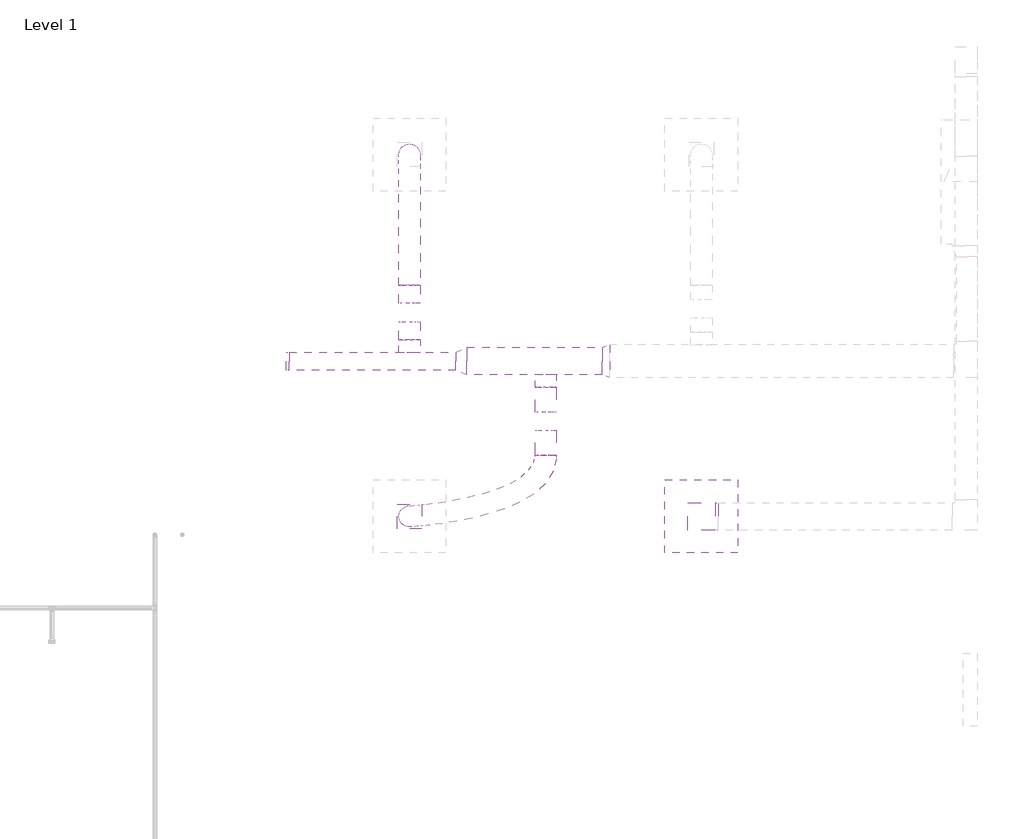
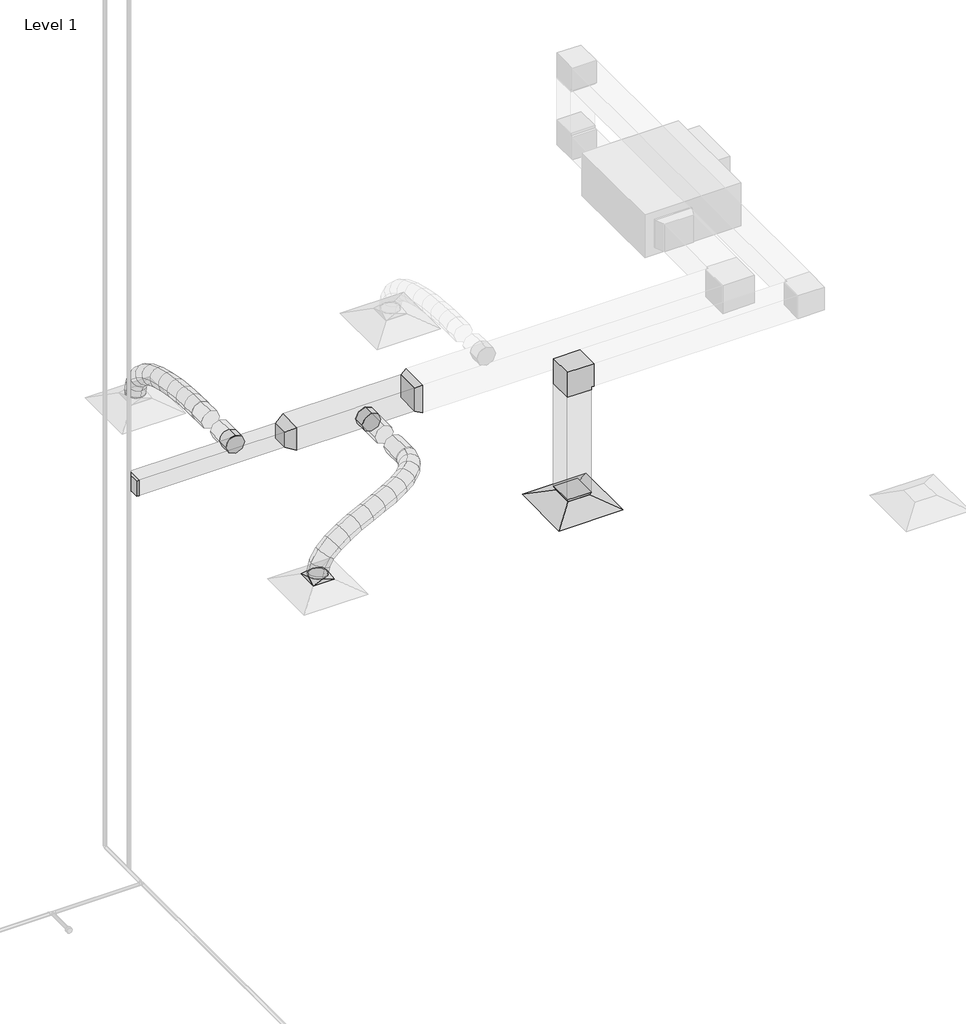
# One storey, part 4 of 7: 9 duct segments, 8 duct fittings, 1 air terminal.
"""IFC4 building model written with IfcOpenShell, lengths in millimetres."""

from ifc_helpers import new_model, si_unit, point, frame, frame_2d, origin, place, context, project, spatial, polyline, circle_curve, ellipse_curve, trimmed, segment, composite_curve, outline, extrude, transform, mapped, element, save
from ifc_brep_helpers import plane_surface, cylinder_surface, advanced_brep
from components import return_diffuser_24_x_24_face_8_x_8_connection_1cf4ec6c, rectangular_elbow_mitered_standard_ce3c2c2c, rectangular_endcap_standard_4a371c32, rectangular_transition_angle_45_degree_65630bf0, rectangular_transition_angle_45_degree_7070cd09, rectangular_transition_angle_45_degree_b0e98409, rectangular_to_round_transition_angle_45_degree_5c3b2161, round_takeoff_standard_f7421198

model = new_model("IFC4")

# Units and contexts
model_context = context("Model", 3, world=origin())
ifc_project = project(units=[si_unit("LENGTHUNIT", "METRE", prefix="MILLI")], contexts=[model_context])

# Site, building, storey
site = spatial("IfcSite", under=ifc_project)
building = spatial("IfcBuilding", under=site)
storey = spatial("IfcBuildingStorey", under=building, Name="Level 1", Elevation=0.0)

# Air terminal
placement = place(None, origin())
return_diffuser_24_x_24_face_8_x_8_connection_shape = return_diffuser_24_x_24_face_8_x_8_connection_1cf4ec6c(model_context)
element("IfcAirTerminal", 1, ObjectType="Return Diffuser : 24 x 24 Face 8 x 8 Connection", at=placement, inside=storey, context=model_context, shape_type="MappedRepresentation", body=[
    mapped(return_diffuser_24_x_24_face_8_x_8_connection_shape, transform((-12181.925255, 13180.8612109, 2438.4), x_axis=(1.0, 0.0, 0.0), y_axis=(0.0, 1.0, 0.0), z_axis=(0.0, 0.0, 1.0))),
])

# Duct fittings
rectangular_elbow_mitered_standard_shape = rectangular_elbow_mitered_standard_ce3c2c2c(model_context)
element("IfcDuctFitting", 2, ObjectType="Rectangular Elbow - Mitered : Standard", at=placement, inside=storey, context=model_context, shape_type="MappedRepresentation", body=[
    mapped(rectangular_elbow_mitered_standard_shape, transform((-12181.925255, 13180.8612109, 3747.2), x_axis=(-1.0, 0.0, 0.0), y_axis=(0.0, 0.0, -1.0), z_axis=(0.0, -1.0, 0.0))),
])
rectangular_endcap_standard_shape = rectangular_endcap_standard_4a371c32(model_context)
element("IfcDuctFitting", 3, ObjectType="Rectangular Endcap : Standard", at=placement, inside=storey, context=model_context, shape_type="MappedRepresentation", body=[
    mapped(rectangular_endcap_standard_shape, transform((-15626.0992371, 14476.8573996, 3048.0), x_axis=(-1.0, 0.0, 0.0), y_axis=(0.0, -1.0, 0.0), z_axis=(0.0, 0.0, 1.0))),
])
rectangular_transition_angle_45_degree_shape = rectangular_transition_angle_45_degree_65630bf0(model_context)
element("IfcDuctFitting", 4, ObjectType="Rectangular Transition - Angle : 45 Degree", at=placement, inside=storey, context=model_context, shape_type="MappedRepresentation", body=[
    mapped(rectangular_transition_angle_45_degree_shape, transform((-14232.2742371, 14476.8573996, 3048.0), x_axis=(1.0, 0.0, 0.0), y_axis=(0.0, 1.0, 0.0), z_axis=(0.0, 0.0, 1.0))),
])
rectangular_transition_angle_45_degree_2_shape = rectangular_transition_angle_45_degree_7070cd09(model_context)
element("IfcDuctFitting", 5, ObjectType="Rectangular Transition - Angle : 45 Degree", at=placement, inside=storey, context=model_context, shape_type="MappedRepresentation", body=[
    mapped(rectangular_transition_angle_45_degree_2_shape, transform((-13009.8992371, 14476.8573996, 3048.0), x_axis=(1.0, 0.0, 0.0), y_axis=(0.0, 1.0, 0.0), z_axis=(0.0, 0.0, 1.0))),
])
rectangular_transition_angle_45_degree_3_shape = rectangular_transition_angle_45_degree_b0e98409(model_context)
element("IfcDuctFitting", 6, ObjectType="Rectangular Transition - Angle : 45 Degree", at=placement, inside=storey, context=model_context, shape_type="MappedRepresentation", body=[
    mapped(rectangular_transition_angle_45_degree_3_shape, transform((-12181.925255, 13180.8612109, 2540.0), x_axis=(0.0, 0.0, 1.0), y_axis=(1.0, 0.0, 0.0), z_axis=(0.0, 1.0, 0.0))),
])
rectangular_to_round_transition_angle_45_degree_shape = rectangular_to_round_transition_angle_45_degree_5c3b2161(model_context)
element("IfcDuctFitting", 7, ObjectType="Rectangular to Round Transition - Angle : 45 Degree", at=placement, inside=storey, context=model_context, shape_type="MappedRepresentation", body=[
    mapped(rectangular_to_round_transition_angle_45_degree_shape, transform((-14620.325255, 13180.8612109, 2540.0), x_axis=(0.0, 0.0, 1.0), y_axis=(1.0, 0.0, 0.0), z_axis=(0.0, 1.0, 0.0))),
])
round_takeoff_standard_shape = round_takeoff_standard_f7421198(model_context)
element("IfcDuctFitting", 8, ObjectType="Round Takeoff : Standard", at=placement, inside=storey, context=model_context, shape_type="MappedRepresentation", body=[
    mapped(round_takeoff_standard_shape, transform((-14620.325255, 14553.0573996, 3048.0), x_axis=(0.0, 1.0, 0.0), y_axis=(-1.0, 0.0, 0.0), z_axis=(0.0, 0.0, 1.0))),
])
element("IfcDuctFitting", 9, ObjectType="Round Takeoff : Standard", at=placement, inside=storey, context=model_context, shape_type="MappedRepresentation", body=[
    mapped(round_takeoff_standard_shape, transform((-13482.7296854, 14362.5573996, 3048.0), x_axis=(0.0, -1.0, 0.0), y_axis=(-1.0, 0.0, 0.0), z_axis=(0.0, 0.0, -1.0))),
])

# Duct segments
element("IfcDuctSegment", 10, ObjectType="Flex - Round", at=placement, inside=storey, context=model_context, shape_type="AdvancedBrep", body=[
    advanced_brep(
    [(-14531.425255, 13180.8612109, 2570.6605122), (-14620.325255, 13091.9612109, 2570.6605122), (-14709.225255, 13180.8612109, 2570.6605122), (-14620.325255, 13269.7612109, 2570.6605122), (-14531.425255, 13180.8612109, 2577.4233692), (-14620.325255, 13091.9612109, 2588.9006585), (-14709.225255, 13180.8612109, 2598.9437254), (-14620.325255, 13269.7612109, 2587.4664361), (-13463.2183729, 13689.4573996, 2961.2675454), (-13569.46214, 13689.4573996, 3028.4886874), (-13502.240998, 13689.4573996, 3134.7324546), (-13395.9972308, 13689.4573996, 3067.5113126), (-14518.430238, 13181.7272628, 2630.3154958), (-14600.6608769, 13093.2717418, 2668.9383207), (-14683.9034435, 13182.5487811, 2702.0081897), (-14601.6728046, 13271.004302, 2663.3853648), (-14480.2960013, 13184.8790681, 2688.8770903), (-14545.6042921, 13097.822184, 2753.4870536), (-14615.3719144, 13188.2129311, 2807.2499871), (-14550.0636237, 13275.2698152, 2742.6400238), (-14415.2281817, 13191.6068255, 2744.3763234), (-14461.595161, 13106.5083986, 2825.1421724), (-14517.8521106, 13198.2960963, 2890.4289588), (-14471.4851312, 13283.3945232, 2809.6631098), (-14324.5750403, 13203.2807992, 2795.2392776), (-14355.3066081, 13120.1958424, 2884.7777208), (-14402.4228502, 13213.1606463, 2955.1931037), (-14371.6912824, 13296.2456031, 2865.6546605), (-14214.8074731, 13220.8689482, 2839.0491198), (-14232.9864009, 13139.7953114, 2933.5975053), (-14275.0403168, 13233.5712561, 3006.0333367), (-14256.861389, 13314.6448929, 2911.4849512), (-14093.0935743, 13245.2276606, 2875.0921745), (-14100.6635278, 13166.2772074, 2972.7821883), (-14140.9634959, 13260.4041712, 3045.7374151), (-14133.3935423, 13339.3546244, 2948.0474012), (-13966.3709513, 13277.2062864, 2903.5889555), (-13964.2175531, 13200.7095342, 3003.4655105), (-14005.6818593, 13294.5426757, 3076.1589065), (-14007.8352575, 13371.0394279, 2976.2823515), (-13841.2729305, 13317.6886857, 2925.1877284), (-13829.3544505, 13244.351967, 3026.7502715), (-13874.9891604, 13336.8355433, 3098.7236273), (-13886.9076403, 13410.172262, 2997.1610841), (-13724.181624, 13367.6387531, 2940.7321526), (-13701.5507018, 13298.8718631, 3043.7168231), (-13754.9303664, 13388.0515134, 3114.6619995), (-13777.5612885, 13456.8184034, 3011.677329), (-13621.278483, 13428.2022191, 2951.1562576), (-13586.1214016, 13366.8075785, 3055.4098301), (-13651.7511055, 13448.7774893, 3125.1140755), (-13686.908187, 13510.1721298, 3020.860503), (-13538.7013164, 13500.9048511, 2957.4255134), (-13489.0655521, 13452.2575401, 3062.7783071), (-13571.7406486, 13519.2203374, 3131.1884668), (-13621.376413, 13567.8676484, 3025.8356732), (-13483.3789219, 13587.3818243, 2960.4778806), (-13421.111437, 13558.4797351, 3066.5276189), (-13520.3972775, 13599.4775165, 3134.0212947), (-13582.6647623, 13628.3796057, 3027.9715564), (-13463.2183729, 13670.1286388, 2961.2675454), (-13395.9972308, 13661.5583051, 3067.5113126), (-13502.240998, 13673.9980213, 3134.7324546), (-13569.46214, 13682.5683551, 3028.4886874)],
    [
        (0, 1, circle_curve(frame((-14620.325255, 13180.8612109, 2570.6605122), z_axis=(0.0, 0.0, -1.0), x_axis=(1.0, 0.0, 0.0)), 88.9)),
        (1, 2, circle_curve(frame((-14620.325255, 13180.8612109, 2570.6605122), z_axis=(0.0, 0.0, -1.0), x_axis=(1.0, 0.0, 0.0)), 88.9)),
        (2, 3, circle_curve(frame((-14620.325255, 13180.8612109, 2570.6605122), z_axis=(0.0, 0.0, -1.0), x_axis=(1.0, 0.0, 0.0)), 88.9)),
        (3, 0, circle_curve(frame((-14620.325255, 13180.8612109, 2570.6605122), z_axis=(0.0, 0.0, -1.0), x_axis=(1.0, 0.0, 0.0)), 88.9)),
        (0, 4),
        (4, 5, ellipse_curve(frame((-14620.325255, 13180.8612109, 2588.1835473), z_axis=(-0.12015605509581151, -0.008007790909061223, -0.9927227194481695), x_axis=(0.9905254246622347, 0.0660134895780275, -0.1204225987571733)), 89.5516928, 88.9)),
        (5, 1),
        (5, 6, ellipse_curve(frame((-14620.325255, 13180.8612109, 2588.1835473), z_axis=(-0.12015605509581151, -0.008007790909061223, -0.9927227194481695), x_axis=(0.9905254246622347, 0.0660134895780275, -0.1204225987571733)), 89.5516928, 88.9)),
        (6, 2),
        (6, 7, ellipse_curve(frame((-14620.325255, 13180.8612109, 2588.1835473), z_axis=(-0.12015605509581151, -0.008007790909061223, -0.9927227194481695), x_axis=(0.9905254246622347, 0.0660134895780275, -0.1204225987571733)), 89.5516928, 88.9)),
        (7, 3),
        (7, 4, ellipse_curve(frame((-14620.325255, 13180.8612109, 2588.1835473), z_axis=(-0.12015605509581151, -0.008007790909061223, -0.9927227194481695), x_axis=(0.9905254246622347, 0.0660134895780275, -0.1204225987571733)), 89.5516928, 88.9)),
        (8, 9, circle_curve(frame((-13482.7296854, 13689.4573996, 3048.0), z_axis=(0.0, 1.0, 0.0), x_axis=(0.21947483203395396, 0.0, -0.9756181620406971)), 88.9)),
        (9, 10, circle_curve(frame((-13482.7296854, 13689.4573996, 3048.0), z_axis=(0.0, 1.0, 0.0), x_axis=(0.21947483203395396, 0.0, -0.9756181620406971)), 88.9)),
        (10, 11, circle_curve(frame((-13482.7296854, 13689.4573996, 3048.0), z_axis=(0.0, 1.0, 0.0), x_axis=(0.21947483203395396, 0.0, -0.9756181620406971)), 88.9)),
        (11, 8, circle_curve(frame((-13482.7296854, 13689.4573996, 3048.0), z_axis=(0.0, 1.0, 0.0), x_axis=(0.21947483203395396, 0.0, -0.9756181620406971)), 88.9)),
        (4, 12),
        (12, 13, ellipse_curve(frame((-14601.1668407, 13182.1380219, 2666.1618427), z_axis=(-0.39748891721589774, -0.030915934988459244, -0.9170860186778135), x_axis=(0.9129878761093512, 0.08682996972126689, -0.39863980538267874)), 90.1800716, 88.9)),
        (13, 5),
        (13, 14, ellipse_curve(frame((-14601.1668407, 13182.1380219, 2666.1618427), z_axis=(-0.39748891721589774, -0.030915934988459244, -0.9170860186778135), x_axis=(0.9129878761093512, 0.08682996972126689, -0.39863980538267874)), 90.1800716, 88.9)),
        (14, 6),
        (14, 15, ellipse_curve(frame((-14601.1668407, 13182.1380219, 2666.1618427), z_axis=(-0.39748891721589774, -0.030915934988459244, -0.9170860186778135), x_axis=(0.9129878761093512, 0.08682996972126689, -0.39863980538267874)), 90.1800716, 88.9)),
        (15, 7),
        (15, 12, ellipse_curve(frame((-14601.1668407, 13182.1380219, 2666.1618427), z_axis=(-0.39748891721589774, -0.030915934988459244, -0.9170860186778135), x_axis=(0.9129878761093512, 0.08682996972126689, -0.39863980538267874)), 90.1800716, 88.9)),
        (12, 16),
        (16, 17, ellipse_curve(frame((-14547.8339579, 13186.5459996, 2748.0635387), z_axis=(-0.6586632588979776, -0.06238916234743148, -0.7498468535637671), x_axis=(0.7414381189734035, 0.1159619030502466, -0.660925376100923)), 89.8347444, 88.9)),
        (17, 13),
        (17, 18, ellipse_curve(frame((-14547.8339579, 13186.5459996, 2748.0635387), z_axis=(-0.6586632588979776, -0.06238916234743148, -0.7498468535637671), x_axis=(0.7414381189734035, 0.1159619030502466, -0.660925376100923)), 89.8347444, 88.9)),
        (18, 14),
        (18, 19, ellipse_curve(frame((-14547.8339579, 13186.5459996, 2748.0635387), z_axis=(-0.6586632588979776, -0.06238916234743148, -0.7498468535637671), x_axis=(0.7414381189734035, 0.1159619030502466, -0.660925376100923)), 89.8347444, 88.9)),
        (19, 15),
        (19, 16, ellipse_curve(frame((-14547.8339579, 13186.5459996, 2748.0635387), z_axis=(-0.6586632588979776, -0.06238916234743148, -0.7498468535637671), x_axis=(0.7414381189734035, 0.1159619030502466, -0.660925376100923)), 89.8347444, 88.9)),
        (16, 20),
        (20, 21, ellipse_curve(frame((-14466.5401461, 13194.9514609, 2817.4026411), z_axis=(-0.8165257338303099, -0.09547702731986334, -0.5693591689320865), x_axis=(0.5504021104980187, 0.1688323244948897, -0.8176510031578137)), 89.3323337, 88.9)),
        (21, 17),
        (21, 22, ellipse_curve(frame((-14466.5401461, 13194.9514609, 2817.4026411), z_axis=(-0.8165257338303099, -0.09547702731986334, -0.5693591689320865), x_axis=(0.5504021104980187, 0.1688323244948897, -0.8176510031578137)), 89.3323337, 88.9)),
        (22, 18),
        (22, 23, ellipse_curve(frame((-14466.5401461, 13194.9514609, 2817.4026411), z_axis=(-0.8165257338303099, -0.09547702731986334, -0.5693591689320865), x_axis=(0.5504021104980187, 0.1688323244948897, -0.8176510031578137)), 89.3323337, 88.9)),
        (23, 19),
        (23, 20, ellipse_curve(frame((-14466.5401461, 13194.9514609, 2817.4026411), z_axis=(-0.8165257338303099, -0.09547702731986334, -0.5693591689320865), x_axis=(0.5504021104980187, 0.1688323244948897, -0.8176510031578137)), 89.3323337, 88.9)),
        (20, 24),
        (24, 25, ellipse_curve(frame((-14363.4989452, 13208.2207228, 2875.2161907), z_axis=(-0.8946974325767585, -0.1296966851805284, -0.42742867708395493), x_axis=(0.38452819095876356, 0.26325683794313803, -0.8847790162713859)), 89.1037971, 88.9)),
        (25, 21),
        (25, 26, ellipse_curve(frame((-14363.4989452, 13208.2207228, 2875.2161907), z_axis=(-0.8946974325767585, -0.1296966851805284, -0.42742867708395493), x_axis=(0.38452819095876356, 0.26325683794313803, -0.8847790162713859)), 89.1037971, 88.9)),
        (26, 22),
        (26, 27, ellipse_curve(frame((-14363.4989452, 13208.2207228, 2875.2161907), z_axis=(-0.8946974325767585, -0.1296966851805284, -0.42742867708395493), x_axis=(0.38452819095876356, 0.26325683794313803, -0.8847790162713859)), 89.1037971, 88.9)),
        (27, 23),
        (27, 24, ellipse_curve(frame((-14363.4989452, 13208.2207228, 2875.2161907), z_axis=(-0.8946974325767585, -0.1296966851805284, -0.42742867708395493), x_axis=(0.38452819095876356, 0.26325683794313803, -0.8847790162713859)), 89.1037971, 88.9)),
        (24, 28),
        (28, 29, ellipse_curve(frame((-14244.923895, 13227.2201021, 2922.5412283), z_axis=(-0.931309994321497, -0.1680341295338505, -0.32315046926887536), x_axis=(0.23087524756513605, 0.41385988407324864, -0.8805774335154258)), 89.0106581, 88.9)),
        (29, 25),
        (29, 30, ellipse_curve(frame((-14244.923895, 13227.2201021, 2922.5412283), z_axis=(-0.931309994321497, -0.1680341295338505, -0.32315046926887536), x_axis=(0.23087524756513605, 0.41385988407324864, -0.8805774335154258)), 89.0106581, 88.9)),
        (30, 26),
        (30, 31, ellipse_curve(frame((-14244.923895, 13227.2201021, 2922.5412283), z_axis=(-0.931309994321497, -0.1680341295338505, -0.32315046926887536), x_axis=(0.23087524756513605, 0.41385988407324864, -0.8805774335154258)), 89.0106581, 88.9)),
        (31, 27),
        (31, 28, ellipse_curve(frame((-14244.923895, 13227.2201021, 2922.5412283), z_axis=(-0.931309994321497, -0.1680341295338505, -0.32315046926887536), x_axis=(0.23087524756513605, 0.41385988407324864, -0.8805774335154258)), 89.0106581, 88.9)),
        (28, 32),
        (32, 33, ellipse_curve(frame((-14117.0285351, 13252.8159159, 2960.4147948), z_axis=(-0.945322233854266, -0.21394505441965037, -0.24615724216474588), x_axis=(0.06831421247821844, 0.6081264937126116, -0.790895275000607)), 88.9770615, 88.9)),
        (33, 29),
        (33, 34, ellipse_curve(frame((-14117.0285351, 13252.8159159, 2960.4147948), z_axis=(-0.945322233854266, -0.21394505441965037, -0.24615724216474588), x_axis=(0.06831421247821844, 0.6081264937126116, -0.790895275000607)), 88.9770615, 88.9)),
        (34, 30),
        (34, 35, ellipse_curve(frame((-14117.0285351, 13252.8159159, 2960.4147948), z_axis=(-0.945322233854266, -0.21394505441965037, -0.24615724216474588), x_axis=(0.06831421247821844, 0.6081264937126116, -0.790895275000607)), 88.9770615, 88.9)),
        (35, 31),
        (35, 32, ellipse_curve(frame((-14117.0285351, 13252.8159159, 2960.4147948), z_axis=(-0.945322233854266, -0.21394505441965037, -0.24615724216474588), x_axis=(0.06831421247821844, 0.6081264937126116, -0.790895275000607)), 88.9770615, 88.9)),
        (32, 36),
        (36, 37, ellipse_curve(frame((-13986.0264053, 13285.874481, 2989.873931), z_axis=(-0.9439031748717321, -0.2716720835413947, -0.18772606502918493), x_axis=(-0.10269120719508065, 0.7817836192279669, -0.6150356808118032)), 88.9763267, 88.9)),
        (37, 33),
        (37, 38, ellipse_curve(frame((-13986.0264053, 13285.874481, 2989.873931), z_axis=(-0.9439031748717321, -0.2716720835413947, -0.18772606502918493), x_axis=(-0.10269120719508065, 0.7817836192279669, -0.6150356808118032)), 88.9763267, 88.9)),
        (38, 34),
        (38, 39, ellipse_curve(frame((-13986.0264053, 13285.874481, 2989.873931), z_axis=(-0.9439031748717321, -0.2716720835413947, -0.18772606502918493), x_axis=(-0.10269120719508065, 0.7817836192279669, -0.6150356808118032)), 88.9763267, 88.9)),
        (39, 35),
        (39, 36, ellipse_curve(frame((-13986.0264053, 13285.874481, 2989.873931), z_axis=(-0.9439031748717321, -0.2716720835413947, -0.18772606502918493), x_axis=(-0.10269120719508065, 0.7817836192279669, -0.6150356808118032)), 88.9763267, 88.9)),
        (36, 40),
        (40, 41, ellipse_curve(frame((-13858.1310454, 13327.2621145, 3011.9556778), z_axis=(-0.927053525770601, -0.3470704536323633, -0.14182334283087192), x_axis=(-0.2624478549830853, 0.8708527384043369, -0.41561596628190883)), 89.0077446, 88.9)),
        (41, 37),
        (41, 42, ellipse_curve(frame((-13858.1310454, 13327.2621145, 3011.9556778), z_axis=(-0.927053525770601, -0.3470704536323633, -0.14182334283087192), x_axis=(-0.2624478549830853, 0.8708527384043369, -0.41561596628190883)), 89.0077446, 88.9)),
        (42, 38),
        (42, 43, ellipse_curve(frame((-13858.1310454, 13327.2621145, 3011.9556778), z_axis=(-0.927053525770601, -0.3470704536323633, -0.14182334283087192), x_axis=(-0.2624478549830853, 0.8708527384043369, -0.41561596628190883)), 89.0077446, 88.9)),
        (43, 39),
        (43, 40, ellipse_curve(frame((-13858.1310454, 13327.2621145, 3011.9556778), z_axis=(-0.927053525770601, -0.3470704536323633, -0.14182334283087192), x_axis=(-0.2624478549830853, 0.8708527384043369, -0.41561596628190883)), 89.0077446, 88.9)),
        (40, 44),
        (44, 45, ellipse_curve(frame((-13739.5559952, 13377.8451332, 3027.6970761), z_axis=(-0.887736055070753, -0.44837739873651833, -0.10431876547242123), x_axis=(-0.4111562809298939, 0.8741669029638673, -0.2584235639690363)), 89.0956868, 88.9)),
        (45, 41),
        (45, 46, ellipse_curve(frame((-13739.5559952, 13377.8451332, 3027.6970761), z_axis=(-0.887736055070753, -0.44837739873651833, -0.10431876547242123), x_axis=(-0.4111562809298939, 0.8741669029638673, -0.2584235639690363)), 89.0956868, 88.9)),
        (46, 42),
        (46, 47, ellipse_curve(frame((-13739.5559952, 13377.8451332, 3027.6970761), z_axis=(-0.887736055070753, -0.44837739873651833, -0.10431876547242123), x_axis=(-0.4111562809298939, 0.8741669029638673, -0.2584235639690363)), 89.0956868, 88.9)),
        (47, 43),
        (47, 44, ellipse_curve(frame((-13739.5559952, 13377.8451332, 3027.6970761), z_axis=(-0.887736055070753, -0.44837739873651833, -0.10431876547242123), x_axis=(-0.4111562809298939, 0.8741669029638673, -0.2584235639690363)), 89.0956868, 88.9)),
        (44, 48),
        (48, 49, ellipse_curve(frame((-13636.5147943, 13438.4898542, 3038.1351665), z_axis=(-0.8076579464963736, -0.5852065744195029, -0.07226276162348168), x_axis=(-0.5702051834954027, 0.8063484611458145, -0.15706115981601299)), 89.3104579, 88.9)),
        (49, 45),
        (49, 50, ellipse_curve(frame((-13636.5147943, 13438.4898542, 3038.1351665), z_axis=(-0.8076579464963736, -0.5852065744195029, -0.07226276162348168), x_axis=(-0.5702051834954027, 0.8063484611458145, -0.15706115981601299)), 89.3104579, 88.9)),
        (50, 46),
        (50, 51, ellipse_curve(frame((-13636.5147943, 13438.4898542, 3038.1351665), z_axis=(-0.8076579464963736, -0.5852065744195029, -0.07226276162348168), x_axis=(-0.5702051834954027, 0.8063484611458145, -0.15706115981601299)), 89.3104579, 88.9)),
        (51, 47),
        (51, 48, ellipse_curve(frame((-13636.5147943, 13438.4898542, 3038.1351665), z_axis=(-0.8076579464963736, -0.5852065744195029, -0.07226276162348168), x_axis=(-0.5702051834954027, 0.8063484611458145, -0.15706115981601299)), 89.3104579, 88.9)),
        (48, 52),
        (52, 53, ellipse_curve(frame((-13555.2209825, 13510.0625942, 3044.3069901), z_axis=(-0.6504005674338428, -0.7583312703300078, -0.04373541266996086), x_axis=(-0.7526996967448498, 0.651168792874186, -0.09706889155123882)), 89.7836257, 88.9)),
        (53, 49),
        (53, 54, ellipse_curve(frame((-13555.2209825, 13510.0625942, 3044.3069901), z_axis=(-0.6504005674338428, -0.7583312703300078, -0.04373541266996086), x_axis=(-0.7526996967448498, 0.651168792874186, -0.09706889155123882)), 89.7836257, 88.9)),
        (54, 50),
        (54, 55, ellipse_curve(frame((-13555.2209825, 13510.0625942, 3044.3069901), z_axis=(-0.6504005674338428, -0.7583312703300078, -0.04373541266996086), x_axis=(-0.7526996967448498, 0.651168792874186, -0.09706889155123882)), 89.7836257, 88.9)),
        (55, 51),
        (55, 52, ellipse_curve(frame((-13555.2209825, 13510.0625942, 3044.3069901), z_axis=(-0.6504005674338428, -0.7583312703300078, -0.04373541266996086), x_axis=(-0.7526996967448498, 0.651168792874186, -0.09706889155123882)), 89.7836257, 88.9)),
        (52, 56),
        (56, 57, ellipse_curve(frame((-13501.8880997, 13593.4296704, 3047.2495877), z_axis=(-0.39304303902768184, -0.9193076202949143, -0.019765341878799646), x_axis=(-0.9172282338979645, 0.3934895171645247, -0.06211575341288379)), 90.1293234, 88.9)),
        (57, 53),
        (57, 58, ellipse_curve(frame((-13501.8880997, 13593.4296704, 3047.2495877), z_axis=(-0.39304303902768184, -0.9193076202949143, -0.019765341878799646), x_axis=(-0.9172282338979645, 0.3934895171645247, -0.06211575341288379)), 90.1293234, 88.9)),
        (58, 54),
        (58, 59, ellipse_curve(frame((-13501.8880997, 13593.4296704, 3047.2495877), z_axis=(-0.39304303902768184, -0.9193076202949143, -0.019765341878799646), x_axis=(-0.9172282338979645, 0.3934895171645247, -0.06211575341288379)), 90.1293234, 88.9)),
        (59, 55),
        (59, 56, ellipse_curve(frame((-13501.8880997, 13593.4296704, 3047.2495877), z_axis=(-0.39304303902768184, -0.9193076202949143, -0.019765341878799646), x_axis=(-0.9172282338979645, 0.3934895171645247, -0.06211575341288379)), 90.1293234, 88.9)),
        (56, 60),
        (60, 61, ellipse_curve(frame((-13482.7296854, 13672.0633301, 3048.0), z_axis=(-0.11920457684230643, -0.9928587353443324, -0.004669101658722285), x_axis=(-0.9920979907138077, 0.11929598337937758, -0.03885929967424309)), 89.5394247, 88.9)),
        (61, 57),
        (61, 62, ellipse_curve(frame((-13482.7296854, 13672.0633301, 3048.0), z_axis=(-0.11920457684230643, -0.9928587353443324, -0.004669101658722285), x_axis=(-0.9920979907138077, 0.11929598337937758, -0.03885929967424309)), 89.5394247, 88.9)),
        (62, 58),
        (62, 63, ellipse_curve(frame((-13482.7296854, 13672.0633301, 3048.0), z_axis=(-0.11920457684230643, -0.9928587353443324, -0.004669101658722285), x_axis=(-0.9920979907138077, 0.11929598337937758, -0.03885929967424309)), 89.5394247, 88.9)),
        (63, 59),
        (63, 60, ellipse_curve(frame((-13482.7296854, 13672.0633301, 3048.0), z_axis=(-0.11920457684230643, -0.9928587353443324, -0.004669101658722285), x_axis=(-0.9920979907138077, 0.11929598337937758, -0.03885929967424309)), 89.5394247, 88.9)),
        (60, 8),
        (11, 61),
        (10, 62),
        (9, 63),
    ],
    [
        plane_surface(frame((-14620.325255, 13091.9612109, 2570.6605122), z_axis=(0.0, 0.0, -1.0), x_axis=(1.0, 0.0, 0.0))),
        cylinder_surface(frame((-14620.325255, 13180.8612109, 2570.6605122), z_axis=(0.0, 0.0, -1.0), x_axis=(1.0, 0.0, 0.0)), 88.9),
        plane_surface(frame((-13571.6296854, 13689.4573996, 3048.0), z_axis=(0.0, 1.0, 0.0), x_axis=(0.0, 0.0, 1.0))),
        cylinder_surface(frame((-14620.325255, 13180.8612109, 2588.1835473), z_axis=(-0.23856329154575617, -0.015899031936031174, -0.9709967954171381), x_axis=(0.9711250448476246, -0.0019243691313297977, -0.23856329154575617)), 88.9),
        cylinder_surface(frame((-14601.1668407, 13182.1380219, 2666.1618427), z_axis=(-0.545130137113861, -0.04505515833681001, -0.8371398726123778), x_axis=(0.8382294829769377, -0.012260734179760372, -0.5451797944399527)), 88.9),
        cylinder_surface(frame((-14547.8339579, 13186.5459996, 2748.0635387), z_axis=(-0.7584893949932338, -0.07842482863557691, -0.6469492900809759), x_axis=(0.6504516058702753, -0.030047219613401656, -0.7589531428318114)), 88.9),
        cylinder_surface(frame((-14466.5401461, 13194.9514609, 2817.4026411), z_axis=(-0.8666587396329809, -0.11160508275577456, -0.486258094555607), x_axis=(0.49347498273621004, -0.0484026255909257, -0.8684121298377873)), 88.9),
        cylinder_surface(frame((-14363.4989452, 13208.2207228, 2875.2161907), z_axis=(-0.9186434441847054, -0.14719500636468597, -0.36664404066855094), x_axis=(0.37886622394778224, -0.06501648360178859, -0.9231647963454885)), 88.9),
        cylinder_surface(frame((-14244.923895, 13227.2201021, 2922.5412283), z_axis=(-0.9416609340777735, -0.1884554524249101, -0.27885341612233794), x_axis=(0.2976638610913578, -0.07966763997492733, -0.9513407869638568)), 88.9),
        cylinder_surface(frame((-14117.0285351, 13252.8159159, 2960.4147948), z_axis=(-0.9473460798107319, -0.23906406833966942, -0.21303468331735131), x_axis=(0.2406338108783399, -0.09257466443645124, -0.9661911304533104)), 88.9),
        cylinder_surface(frame((-13986.0264053, 13285.874481, 2989.873931), z_axis=(-0.9388408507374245, -0.30381400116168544, -0.16209537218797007), x_axis=(0.20173403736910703, -0.10377070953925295, -0.9739276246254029)), 88.9),
        cylinder_surface(frame((-13858.1310454, 13327.2621145, 3011.9556778), z_axis=(-0.9130217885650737, -0.3894866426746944, -0.12120795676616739), x_axis=(0.17785901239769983, -0.11270904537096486, -0.9775800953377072)), 88.9),
        cylinder_surface(frame((-13739.5559952, 13377.8451332, 3027.6970761), z_axis=(-0.8585507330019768, -0.5052985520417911, -0.08697132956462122), x_axis=(0.16831457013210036, -0.11752974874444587, -0.9787016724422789)), 88.9),
        cylinder_surface(frame((-13636.5147943, 13438.4898542, 3038.1351665), z_axis=(-0.7493414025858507, -0.6597355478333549, -0.056889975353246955), x_axis=(0.1740687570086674, -0.11336042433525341, -0.9781868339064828)), 88.9),
        cylinder_surface(frame((-13555.2209825, 13510.0625942, 3044.3069901), z_axis=(-0.5386576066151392, -0.8420004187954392, -0.02971998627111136), x_axis=(0.1942724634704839, -0.08980401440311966, -0.9768282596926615)), 88.9),
        cylinder_surface(frame((-13501.8880997, 13593.4296704, 3047.2495877), z_axis=(-0.23670661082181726, -0.9715369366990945, -0.009271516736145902), x_axis=(0.21432349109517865, -0.04290568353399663, -0.975819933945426)), 88.9),
        cylinder_surface(frame((-13482.7296854, 13672.0633301, 3048.0), z_axis=(0.0, -1.0000000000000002, 0.0), x_axis=(0.21947483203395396, 0.0, -0.9756181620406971)), 88.9),
    ],
    [
        (0, [[1, 2, 3, 4]]),
        (1, [[-1, 5, 6, 7]]),
        (1, [[-2, -7, 8, 9]]),
        (1, [[-3, -9, 10, 11]]),
        (1, [[-4, -11, 12, -5]]),
        (2, [[13, 14, 15, 16]]),
        (3, [[-6, 17, 18, 19]]),
        (3, [[-8, -19, 20, 21]]),
        (3, [[-10, -21, 22, 23]]),
        (3, [[-12, -23, 24, -17]]),
        (4, [[-18, 25, 26, 27]]),
        (4, [[-20, -27, 28, 29]]),
        (4, [[-22, -29, 30, 31]]),
        (4, [[-24, -31, 32, -25]]),
        (5, [[-26, 33, 34, 35]]),
        (5, [[-28, -35, 36, 37]]),
        (5, [[-30, -37, 38, 39]]),
        (5, [[-32, -39, 40, -33]]),
        (6, [[-34, 41, 42, 43]]),
        (6, [[-36, -43, 44, 45]]),
        (6, [[-38, -45, 46, 47]]),
        (6, [[-40, -47, 48, -41]]),
        (7, [[-42, 49, 50, 51]]),
        (7, [[-44, -51, 52, 53]]),
        (7, [[-46, -53, 54, 55]]),
        (7, [[-48, -55, 56, -49]]),
        (8, [[-50, 57, 58, 59]]),
        (8, [[-52, -59, 60, 61]]),
        (8, [[-54, -61, 62, 63]]),
        (8, [[-56, -63, 64, -57]]),
        (9, [[-58, 65, 66, 67]]),
        (9, [[-60, -67, 68, 69]]),
        (9, [[-62, -69, 70, 71]]),
        (9, [[-64, -71, 72, -65]]),
        (10, [[-66, 73, 74, 75]]),
        (10, [[-68, -75, 76, 77]]),
        (10, [[-70, -77, 78, 79]]),
        (10, [[-72, -79, 80, -73]]),
        (11, [[-74, 81, 82, 83]]),
        (11, [[-76, -83, 84, 85]]),
        (11, [[-78, -85, 86, 87]]),
        (11, [[-80, -87, 88, -81]]),
        (12, [[-82, 89, 90, 91]]),
        (12, [[-84, -91, 92, 93]]),
        (12, [[-86, -93, 94, 95]]),
        (12, [[-88, -95, 96, -89]]),
        (13, [[-90, 97, 98, 99]]),
        (13, [[-92, -99, 100, 101]]),
        (13, [[-94, -101, 102, 103]]),
        (13, [[-96, -103, 104, -97]]),
        (14, [[-98, 105, 106, 107]]),
        (14, [[-100, -107, 108, 109]]),
        (14, [[-102, -109, 110, 111]]),
        (14, [[-104, -111, 112, -105]]),
        (15, [[-106, 113, 114, 115]]),
        (15, [[-108, -115, 116, 117]]),
        (15, [[-110, -117, 118, 119]]),
        (15, [[-112, -119, 120, -113]]),
        (16, [[-114, 121, -16, 122]]),
        (16, [[-116, -122, -15, 123]]),
        (16, [[-118, -123, -14, 124]]),
        (16, [[-120, -124, -13, -121]]),
    ],
),
])
element("IfcDuctSegment", 11, ObjectType="Flex - Round", at=placement, inside=storey, context=model_context, shape_type="AdvancedBrep", body=[
    advanced_brep(
    [(-14531.425255, 16201.8737109, 2570.6605122), (-14620.325255, 16112.9737109, 2570.6605122), (-14709.225255, 16201.8737109, 2570.6605122), (-14620.325255, 16290.7737109, 2570.6605122), (-14531.425255, 16201.8737109, 2586.4523181), (-14620.325255, 16112.9737109, 2577.1822102), (-14709.225255, 16201.8737109, 2586.4523181), (-14620.325255, 16290.7737109, 2595.722426), (-14531.425255, 15111.8573996, 3048.0), (-14620.325255, 15113.7175086, 3136.8805378), (-14709.225255, 15111.8573996, 3048.0), (-14620.325255, 15109.9972905, 2959.1194622), (-14531.425255, 16182.0628327, 2680.4122246), (-14620.325255, 16098.1652096, 2647.4166232), (-14709.225255, 16182.0628327, 2680.4122246), (-14620.325255, 16265.9604558, 2713.4078261), (-14531.425255, 16126.5905159, 2772.6178247), (-14620.325255, 16057.3471166, 2715.2641005), (-14709.225255, 16126.5905159, 2772.6178247), (-14620.325255, 16195.8339153, 2829.9715488), (-14531.425255, 16041.3972373, 2848.6889575), (-14620.325255, 15989.3806328, 2775.9530129), (-14709.225255, 16041.3972373, 2848.6889575), (-14620.325255, 16093.4138419, 2921.4249021), (-14531.425255, 15932.4234736, 2910.0372683), (-14620.325255, 15894.6580011, 2829.2784488), (-14709.225255, 15932.4234736, 2910.0372683), (-14620.325255, 15970.1889461, 2990.7960879), (-14531.425255, 15805.6097014, 2958.0744023), (-14620.325255, 15778.5801244, 2873.248819), (-14709.225255, 15805.6097014, 2958.0744023), (-14620.325255, 15832.6392785, 3042.8999856), (-14531.425255, 15666.8963976, 2994.2120046), (-14620.325255, 15647.9006517, 2907.2934469), (-14709.225255, 15666.8963976, 2994.2120046), (-14620.325255, 15685.8921434, 3081.1305623), (-14531.425255, 15522.2240387, 3019.8617203), (-14620.325255, 15509.3937796, 2931.8500514), (-14709.225255, 15522.2240387, 3019.8617203), (-14620.325255, 15535.0542978, 3107.8733893), (-14531.425255, 15377.5331016, 3036.4351947), (-14620.325255, 15369.6219701, 2947.8600693), (-14709.225255, 15377.5331016, 3036.4351947), (-14620.325255, 15385.4442332, 3125.0103201), (-14531.425255, 15238.764063, 3045.3440729), (-14620.325255, 15234.9844493, 2956.5037069), (-14709.225255, 15238.764063, 3045.3440729), (-14620.325255, 15242.5436768, 3134.1844389)],
    [
        (0, 1, circle_curve(frame((-14620.325255, 16201.8737109, 2570.6605122), z_axis=(0.0, 0.0, -1.0), x_axis=(1.0, 0.0, 0.0)), 88.9)),
        (1, 2, circle_curve(frame((-14620.325255, 16201.8737109, 2570.6605122), z_axis=(0.0, 0.0, -1.0), x_axis=(1.0, 0.0, 0.0)), 88.9)),
        (2, 3, circle_curve(frame((-14620.325255, 16201.8737109, 2570.6605122), z_axis=(0.0, 0.0, -1.0), x_axis=(1.0, 0.0, 0.0)), 88.9)),
        (3, 0, circle_curve(frame((-14620.325255, 16201.8737109, 2570.6605122), z_axis=(0.0, 0.0, -1.0), x_axis=(1.0, 0.0, 0.0)), 88.9)),
        (0, 4),
        (4, 5, ellipse_curve(frame((-14620.325255, 16201.8737109, 2586.4523181), z_axis=(0.0, 0.10371334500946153, -0.9946072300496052), x_axis=(0.0, -0.9946072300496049, -0.10371334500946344)), 89.3820167, 88.9)),
        (5, 1),
        (5, 6, ellipse_curve(frame((-14620.325255, 16201.8737109, 2586.4523181), z_axis=(0.0, 0.10371334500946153, -0.9946072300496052), x_axis=(0.0, -0.9946072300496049, -0.10371334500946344)), 89.3820167, 88.9)),
        (6, 2),
        (6, 7, ellipse_curve(frame((-14620.325255, 16201.8737109, 2586.4523181), z_axis=(0.0, 0.10371334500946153, -0.9946072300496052), x_axis=(0.0, -0.9946072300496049, -0.10371334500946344)), 89.3820167, 88.9)),
        (7, 3),
        (7, 4, ellipse_curve(frame((-14620.325255, 16201.8737109, 2586.4523181), z_axis=(0.0, 0.10371334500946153, -0.9946072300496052), x_axis=(0.0, -0.9946072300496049, -0.10371334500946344)), 89.3820167, 88.9)),
        (8, 9, circle_curve(frame((-14620.325255, 15111.8573996, 3048.0), z_axis=(0.0, -0.9997810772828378, 0.020923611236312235), x_axis=(1.0, 0.0, 0.0)), 88.9)),
        (9, 10, circle_curve(frame((-14620.325255, 15111.8573996, 3048.0), z_axis=(0.0, -0.9997810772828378, 0.020923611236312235), x_axis=(1.0, 0.0, 0.0)), 88.9)),
        (10, 11, circle_curve(frame((-14620.325255, 15111.8573996, 3048.0), z_axis=(0.0, -0.9997810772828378, 0.020923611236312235), x_axis=(1.0, 0.0, 0.0)), 88.9)),
        (11, 8, circle_curve(frame((-14620.325255, 15111.8573996, 3048.0), z_axis=(0.0, -0.9997810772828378, 0.020923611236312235), x_axis=(1.0, 0.0, 0.0)), 88.9)),
        (4, 12),
        (12, 13, ellipse_curve(frame((-14620.325255, 16182.0628327, 2680.4122246), z_axis=(0.0, 0.36599655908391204, -0.9306162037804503), x_axis=(0.0, -0.9306162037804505, -0.3659965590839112)), 90.1527642, 88.9)),
        (13, 5),
        (13, 14, ellipse_curve(frame((-14620.325255, 16182.0628327, 2680.4122246), z_axis=(0.0, 0.36599655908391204, -0.9306162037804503), x_axis=(0.0, -0.9306162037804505, -0.3659965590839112)), 90.1527642, 88.9)),
        (14, 6),
        (14, 15, ellipse_curve(frame((-14620.325255, 16182.0628327, 2680.4122246), z_axis=(0.0, 0.36599655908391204, -0.9306162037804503), x_axis=(0.0, -0.9306162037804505, -0.3659965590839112)), 90.1527642, 88.9)),
        (15, 7),
        (15, 12, ellipse_curve(frame((-14620.325255, 16182.0628327, 2680.4122246), z_axis=(0.0, 0.36599655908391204, -0.9306162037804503), x_axis=(0.0, -0.9306162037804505, -0.3659965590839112)), 90.1527642, 88.9)),
        (12, 16),
        (16, 17, ellipse_curve(frame((-14620.325255, 16126.5905159, 2772.6178247), z_axis=(0.0, 0.6378900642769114, -0.7701274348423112), x_axis=(0.0, -0.7701274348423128, -0.637890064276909)), 89.9116123, 88.9)),
        (17, 13),
        (17, 18, ellipse_curve(frame((-14620.325255, 16126.5905159, 2772.6178247), z_axis=(0.0, 0.6378900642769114, -0.7701274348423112), x_axis=(0.0, -0.7701274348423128, -0.637890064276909)), 89.9116123, 88.9)),
        (18, 14),
        (18, 19, ellipse_curve(frame((-14620.325255, 16126.5905159, 2772.6178247), z_axis=(0.0, 0.6378900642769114, -0.7701274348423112), x_axis=(0.0, -0.7701274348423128, -0.637890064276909)), 89.9116123, 88.9)),
        (19, 15),
        (19, 16, ellipse_curve(frame((-14620.325255, 16126.5905159, 2772.6178247), z_axis=(0.0, 0.6378900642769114, -0.7701274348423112), x_axis=(0.0, -0.7701274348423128, -0.637890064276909)), 89.9116123, 88.9)),
        (16, 20),
        (20, 21, ellipse_curve(frame((-14620.325255, 16041.3972373, 2848.6889575), z_axis=(0.0, 0.8134035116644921, -0.581699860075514), x_axis=(0.0, -0.581699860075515, -0.8134035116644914)), 89.4217244, 88.9)),
        (21, 17),
        (21, 22, ellipse_curve(frame((-14620.325255, 16041.3972373, 2848.6889575), z_axis=(0.0, 0.8134035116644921, -0.581699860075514), x_axis=(0.0, -0.581699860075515, -0.8134035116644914)), 89.4217244, 88.9)),
        (22, 18),
        (22, 23, ellipse_curve(frame((-14620.325255, 16041.3972373, 2848.6889575), z_axis=(0.0, 0.8134035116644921, -0.581699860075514), x_axis=(0.0, -0.581699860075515, -0.8134035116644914)), 89.4217244, 88.9)),
        (23, 19),
        (23, 20, ellipse_curve(frame((-14620.325255, 16041.3972373, 2848.6889575), z_axis=(0.0, 0.8134035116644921, -0.581699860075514), x_axis=(0.0, -0.581699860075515, -0.8134035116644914)), 89.4217244, 88.9)),
        (20, 24),
        (24, 25, ellipse_curve(frame((-14620.325255, 15932.4234736, 2910.0372683), z_axis=(0.0, 0.9058474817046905, -0.423603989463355), x_axis=(0.0, -0.4236039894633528, -0.9058474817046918)), 89.1527782, 88.9)),
        (25, 21),
        (25, 26, ellipse_curve(frame((-14620.325255, 15932.4234736, 2910.0372683), z_axis=(0.0, 0.9058474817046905, -0.423603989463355), x_axis=(0.0, -0.4236039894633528, -0.9058474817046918)), 89.1527782, 88.9)),
        (26, 22),
        (26, 27, ellipse_curve(frame((-14620.325255, 15932.4234736, 2910.0372683), z_axis=(0.0, 0.9058474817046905, -0.423603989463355), x_axis=(0.0, -0.4236039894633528, -0.9058474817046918)), 89.1527782, 88.9)),
        (27, 23),
        (27, 24, ellipse_curve(frame((-14620.325255, 15932.4234736, 2910.0372683), z_axis=(0.0, 0.9058474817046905, -0.423603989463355), x_axis=(0.0, -0.4236039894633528, -0.9058474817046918)), 89.1527782, 88.9)),
        (24, 28),
        (28, 29, ellipse_curve(frame((-14620.325255, 15805.6097014, 2958.0744023), z_axis=(0.0, 0.9527971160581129, -0.30360773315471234), x_axis=(0.0, -0.3036077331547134, -0.9527971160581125)), 89.0279598, 88.9)),
        (29, 25),
        (29, 30, ellipse_curve(frame((-14620.325255, 15805.6097014, 2958.0744023), z_axis=(0.0, 0.9527971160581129, -0.30360773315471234), x_axis=(0.0, -0.3036077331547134, -0.9527971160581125)), 89.0279598, 88.9)),
        (30, 26),
        (30, 31, ellipse_curve(frame((-14620.325255, 15805.6097014, 2958.0744023), z_axis=(0.0, 0.9527971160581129, -0.30360773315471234), x_axis=(0.0, -0.3036077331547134, -0.9527971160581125)), 89.0279598, 88.9)),
        (31, 27),
        (31, 28, ellipse_curve(frame((-14620.325255, 15805.6097014, 2958.0744023), z_axis=(0.0, 0.9527971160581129, -0.30360773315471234), x_axis=(0.0, -0.3036077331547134, -0.9527971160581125)), 89.0279598, 88.9)),
        (28, 32),
        (32, 33, ellipse_curve(frame((-14620.325255, 15666.8963976, 2994.2120046), z_axis=(0.0, 0.9769415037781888, -0.21350713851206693), x_axis=(0.0, -0.2135071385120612, -0.9769415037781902)), 88.9700738, 88.9)),
        (33, 29),
        (33, 34, ellipse_curve(frame((-14620.325255, 15666.8963976, 2994.2120046), z_axis=(0.0, 0.9769415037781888, -0.21350713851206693), x_axis=(0.0, -0.2135071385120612, -0.9769415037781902)), 88.9700738, 88.9)),
        (34, 30),
        (34, 35, ellipse_curve(frame((-14620.325255, 15666.8963976, 2994.2120046), z_axis=(0.0, 0.9769415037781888, -0.21350713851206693), x_axis=(0.0, -0.2135071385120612, -0.9769415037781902)), 88.9700738, 88.9)),
        (35, 31),
        (35, 32, ellipse_curve(frame((-14620.325255, 15666.8963976, 2994.2120046), z_axis=(0.0, 0.9769415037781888, -0.21350713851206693), x_axis=(0.0, -0.2135071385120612, -0.9769415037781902)), 88.9700738, 88.9)),
        (32, 36),
        (36, 37, ellipse_curve(frame((-14620.325255, 15522.2240387, 3019.8617203), z_axis=(0.0, 0.9895406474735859, -0.14425431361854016), x_axis=(0.0, -0.1442543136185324, -0.9895406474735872)), 88.9419441, 88.9)),
        (37, 33),
        (37, 38, ellipse_curve(frame((-14620.325255, 15522.2240387, 3019.8617203), z_axis=(0.0, 0.9895406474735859, -0.14425431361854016), x_axis=(0.0, -0.1442543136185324, -0.9895406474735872)), 88.9419441, 88.9)),
        (38, 34),
        (38, 39, ellipse_curve(frame((-14620.325255, 15522.2240387, 3019.8617203), z_axis=(0.0, 0.9895406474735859, -0.14425431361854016), x_axis=(0.0, -0.1442543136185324, -0.9895406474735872)), 88.9419441, 88.9)),
        (39, 35),
        (39, 36, ellipse_curve(frame((-14620.325255, 15522.2240387, 3019.8617203), z_axis=(0.0, 0.9895406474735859, -0.14425431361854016), x_axis=(0.0, -0.1442543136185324, -0.9895406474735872)), 88.9419441, 88.9)),
        (36, 40),
        (40, 41, ellipse_curve(frame((-14620.325255, 15377.5331016, 3036.4351947), z_axis=(0.0, 0.9960350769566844, -0.08896137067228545), x_axis=(0.0, -0.0889613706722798, -0.9960350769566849)), 88.9277169, 88.9)),
        (41, 37),
        (41, 42, ellipse_curve(frame((-14620.325255, 15377.5331016, 3036.4351947), z_axis=(0.0, 0.9960350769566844, -0.08896137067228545), x_axis=(0.0, -0.0889613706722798, -0.9960350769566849)), 88.9277169, 88.9)),
        (42, 38),
        (42, 43, ellipse_curve(frame((-14620.325255, 15377.5331016, 3036.4351947), z_axis=(0.0, 0.9960350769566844, -0.08896137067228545), x_axis=(0.0, -0.0889613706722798, -0.9960350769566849)), 88.9277169, 88.9)),
        (43, 39),
        (43, 40, ellipse_curve(frame((-14620.325255, 15377.5331016, 3036.4351947), z_axis=(0.0, 0.9960350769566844, -0.08896137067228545), x_axis=(0.0, -0.0889613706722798, -0.9960350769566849)), 88.9277169, 88.9)),
        (40, 44),
        (44, 45, ellipse_curve(frame((-14620.325255, 15238.764063, 3045.3440729), z_axis=(0.0, 0.9990962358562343, -0.04250542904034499), x_axis=(0.0, -0.04250542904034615, -0.9990962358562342)), 88.9207294, 88.9)),
        (45, 41),
        (45, 46, ellipse_curve(frame((-14620.325255, 15238.764063, 3045.3440729), z_axis=(0.0, 0.9990962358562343, -0.04250542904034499), x_axis=(0.0, -0.04250542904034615, -0.9990962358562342)), 88.9207294, 88.9)),
        (46, 42),
        (46, 47, ellipse_curve(frame((-14620.325255, 15238.764063, 3045.3440729), z_axis=(0.0, 0.9990962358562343, -0.04250542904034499), x_axis=(0.0, -0.04250542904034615, -0.9990962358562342)), 88.9207294, 88.9)),
        (47, 43),
        (47, 44, ellipse_curve(frame((-14620.325255, 15238.764063, 3045.3440729), z_axis=(0.0, 0.9990962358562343, -0.04250542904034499), x_axis=(0.0, -0.04250542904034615, -0.9990962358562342)), 88.9207294, 88.9)),
        (44, 8),
        (11, 45),
        (10, 46),
        (9, 47),
    ],
    [
        plane_surface(frame((-14620.325255, 16112.9737109, 2570.6605122), z_axis=(0.0, 0.0, -1.0), x_axis=(1.0, 0.0, 0.0))),
        cylinder_surface(frame((-14620.325255, 16201.8737109, 2570.6605122), z_axis=(0.0, 0.0, -1.0), x_axis=(1.0, 0.0, 0.0)), 88.9),
        plane_surface(frame((-14620.325255, 15109.9972905, 2959.1194622), z_axis=(0.0, -0.9997810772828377, 0.020923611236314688), x_axis=(1.0, 0.0, 0.0))),
        cylinder_surface(frame((-14620.325255, 16201.8737109, 2586.4523181), z_axis=(0.0, 0.20630808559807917, -0.9784870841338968), x_axis=(1.0, 0.0, 0.0)), 88.9),
        cylinder_surface(frame((-14620.325255, 16182.0628327, 2680.4122246), z_axis=(0.0, 0.5155132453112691, -0.8568816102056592), x_axis=(1.0, 0.0, 0.0)), 88.9),
        cylinder_surface(frame((-14620.325255, 16126.5905159, 2772.6178247), z_axis=(0.0, 0.7459128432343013, -0.6660435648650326), x_axis=(1.0, 0.0, 0.0)), 88.9),
        cylinder_surface(frame((-14620.325255, 16041.3972373, 2848.6889575), z_axis=(0.0, 0.8714026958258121, -0.490568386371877), x_axis=(1.0, 0.0, 0.0)), 88.9),
        cylinder_surface(frame((-14620.325255, 15932.4234736, 2910.0372683), z_axis=(0.0, 0.9351555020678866, -0.354237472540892), x_axis=(1.0, 0.0, 0.0)), 88.9),
        cylinder_surface(frame((-14620.325255, 15805.6097014, 2958.0744023), z_axis=(0.0, 0.9676998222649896, -0.2521052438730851), x_axis=(1.0, 0.0, 0.0)), 88.9),
        cylinder_surface(frame((-14620.325255, 15666.8963976, 2994.2120046), z_axis=(0.0, 0.9846442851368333, -0.17457271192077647), x_axis=(1.0, 0.0, 0.0)), 88.9),
        cylinder_surface(frame((-14620.325255, 15522.2240387, 3019.8617203), z_axis=(0.0, 0.9935036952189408, -0.11379985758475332), x_axis=(1.0, 0.0, 0.0)), 88.9),
        cylinder_surface(frame((-14620.325255, 15377.5331016, 3036.4351947), z_axis=(0.0, 0.9979455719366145, -0.06406742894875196), x_axis=(1.0, 0.0, 0.0)), 88.9),
        cylinder_surface(frame((-14620.325255, 15238.764063, 3045.3440729), z_axis=(0.0, 0.9997810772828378, -0.020923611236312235), x_axis=(1.0, 0.0, 0.0)), 88.9),
    ],
    [
        (0, [[1, 2, 3, 4]]),
        (1, [[-1, 5, 6, 7]]),
        (1, [[-2, -7, 8, 9]]),
        (1, [[-3, -9, 10, 11]]),
        (1, [[-4, -11, 12, -5]]),
        (2, [[13, 14, 15, 16]]),
        (3, [[-6, 17, 18, 19]]),
        (3, [[-8, -19, 20, 21]]),
        (3, [[-10, -21, 22, 23]]),
        (3, [[-12, -23, 24, -17]]),
        (4, [[-18, 25, 26, 27]]),
        (4, [[-20, -27, 28, 29]]),
        (4, [[-22, -29, 30, 31]]),
        (4, [[-24, -31, 32, -25]]),
        (5, [[-26, 33, 34, 35]]),
        (5, [[-28, -35, 36, 37]]),
        (5, [[-30, -37, 38, 39]]),
        (5, [[-32, -39, 40, -33]]),
        (6, [[-34, 41, 42, 43]]),
        (6, [[-36, -43, 44, 45]]),
        (6, [[-38, -45, 46, 47]]),
        (6, [[-40, -47, 48, -41]]),
        (7, [[-42, 49, 50, 51]]),
        (7, [[-44, -51, 52, 53]]),
        (7, [[-46, -53, 54, 55]]),
        (7, [[-48, -55, 56, -49]]),
        (8, [[-50, 57, 58, 59]]),
        (8, [[-52, -59, 60, 61]]),
        (8, [[-54, -61, 62, 63]]),
        (8, [[-56, -63, 64, -57]]),
        (9, [[-58, 65, 66, 67]]),
        (9, [[-60, -67, 68, 69]]),
        (9, [[-62, -69, 70, 71]]),
        (9, [[-64, -71, 72, -65]]),
        (10, [[-66, 73, 74, 75]]),
        (10, [[-68, -75, 76, 77]]),
        (10, [[-70, -77, 78, 79]]),
        (10, [[-72, -79, 80, -73]]),
        (11, [[-74, 81, 82, 83]]),
        (11, [[-76, -83, 84, 85]]),
        (11, [[-78, -85, 86, 87]]),
        (11, [[-80, -87, 88, -81]]),
        (12, [[-82, 89, -16, 90]]),
        (12, [[-84, -90, -15, 91]]),
        (12, [[-86, -91, -14, 92]]),
        (12, [[-88, -92, -13, -89]]),
    ],
),
])
element("IfcDuctSegment", 12, ObjectType="Mitered Elbows / Tees", at=placement, inside=storey, context=model_context, shape_type="SweptSolid", body=[
    extrude(outline(polyline([(-14232.2742371, 14553.0573996), (-14232.2742371, 14400.6573996), (-15626.0992371, 14400.6573996), (-15626.0992371, 14553.0573996), (-14232.2742371, 14553.0573996)])), frame((0.0, 0.0, 2971.8), z_axis=(0.0, 0.0, 1.0), x_axis=(1.0, 0.0, 0.0)), (0.0, 0.0, 1.0), 152.4),
])
element("IfcDuctSegment", 13, ObjectType="Mitered Elbows / Tees", at=placement, inside=storey, context=model_context, shape_type="SweptSolid", body=[
    extrude(outline(polyline([(-12067.625255, 13066.5612109), (-12296.225255, 13066.5612109), (-12296.225255, 13295.1612109), (-12067.625255, 13295.1612109), (-12067.625255, 13066.5612109)])), frame((0.0, 0.0, 2570.6605122), z_axis=(0.0, 0.0, 1.0), x_axis=(1.0, 0.0, 0.0)), (0.0, 0.0, 1.0), 1036.8394878),
])
element("IfcDuctSegment", 14, ObjectType="Mitered Elbows / Tees", at=placement, inside=storey, context=model_context, shape_type="SweptSolid", body=[
    extrude(outline(polyline([(-13009.8992371, 14591.1573996), (-13009.8992371, 14362.5573996), (-14140.2927004, 14362.5573996), (-14140.2927004, 14591.1573996), (-13009.8992371, 14591.1573996)])), frame((0.0, 0.0, 2933.7), z_axis=(0.0, 0.0, 1.0), x_axis=(1.0, 0.0, 0.0)), (0.0, 0.0, 1.0), 228.6),
])
element("IfcDuctSegment", 15, ObjectType="Taps", at=placement, inside=storey, context=model_context, shape_type="SweptSolid", body=[
    extrude(outline(composite_curve([segment(trimmed(circle_curve(frame_2d((3048.0, -14620.325255)), 88.9), [point((3048.0, -14531.425255))], [point((3136.9, -14620.325255))], False, "CARTESIAN"), True, "CONTINUOUS"), segment(trimmed(circle_curve(frame_2d((3048.0, -14620.325255)), 88.9), [point((3136.9, -14620.325255))], [point((3048.0, -14709.225255))], False, "CARTESIAN"), True, "CONTINUOUS"), segment(trimmed(circle_curve(frame_2d((3048.0, -14620.325255)), 88.9), [point((3048.0, -14709.225255))], [point((2959.1, -14620.325255))], False, "CARTESIAN"), True, "CONTINUOUS"), segment(trimmed(circle_curve(frame_2d((3048.0, -14620.325255)), 88.9), [point((2959.1, -14620.325255))], [point((3048.0, -14531.425255))], False, "CARTESIAN"), True, "CONTINUOUS")], self_intersect=False)), frame((0.0, 14959.4573996, 0.0), z_axis=(0.0, 1.0, 0.0), x_axis=(0.0, 0.0, 1.0)), (0.0, 0.0, 1.0), 152.4),
])
element("IfcDuctSegment", 16, ObjectType="Taps", at=placement, inside=storey, context=model_context, shape_type="SweptSolid", body=[
    extrude(outline(composite_curve([segment(trimmed(circle_curve(frame_2d((3048.0, -13482.7296854)), 88.9), [point((3048.0, -13571.6296854))], [point((2959.1, -13482.7296854))], False, "CARTESIAN"), True, "CONTINUOUS"), segment(trimmed(circle_curve(frame_2d((3048.0, -13482.7296854)), 88.9), [point((2959.1, -13482.7296854))], [point((3048.0, -13393.8296854))], False, "CARTESIAN"), True, "CONTINUOUS"), segment(trimmed(circle_curve(frame_2d((3048.0, -13482.7296854)), 88.9), [point((3048.0, -13393.8296854))], [point((3136.9, -13482.7296854))], False, "CARTESIAN"), True, "CONTINUOUS"), segment(trimmed(circle_curve(frame_2d((3048.0, -13482.7296854)), 88.9), [point((3136.9, -13482.7296854))], [point((3048.0, -13571.6296854))], False, "CARTESIAN"), True, "CONTINUOUS")], self_intersect=False)), frame((0.0, 13689.4573996, 0.0), z_axis=(0.0, 1.0, 0.0), x_axis=(0.0, 0.0, 1.0)), (0.0, 0.0, 1.0), 209.55),
])
element("IfcDuctSegment", 17, ObjectType="Taps", at=placement, inside=storey, context=model_context, shape_type="SweptSolid", body=[
    extrude(outline(composite_curve([segment(trimmed(circle_curve(frame_2d((3048.0, -14620.325255)), 88.9), [point((3048.0, -14531.425255))], [point((3136.9, -14620.325255))], False, "CARTESIAN"), True, "CONTINUOUS"), segment(trimmed(circle_curve(frame_2d((3048.0, -14620.325255)), 88.9), [point((3136.9, -14620.325255))], [point((3048.0, -14709.225255))], False, "CARTESIAN"), True, "CONTINUOUS"), segment(trimmed(circle_curve(frame_2d((3048.0, -14620.325255)), 88.9), [point((3048.0, -14709.225255))], [point((2959.1, -14620.325255))], False, "CARTESIAN"), True, "CONTINUOUS"), segment(trimmed(circle_curve(frame_2d((3048.0, -14620.325255)), 88.9), [point((2959.1, -14620.325255))], [point((3048.0, -14531.425255))], False, "CARTESIAN"), True, "CONTINUOUS")], self_intersect=False)), frame((0.0, 14654.6573996, 0.0), z_axis=(0.0, 1.0, 0.0), x_axis=(0.0, 0.0, 1.0)), (0.0, 0.0, 1.0), 152.4),
])
element("IfcDuctSegment", 18, ObjectType="Taps", at=placement, inside=storey, context=model_context, shape_type="SweptSolid", body=[
    extrude(outline(composite_curve([segment(trimmed(circle_curve(frame_2d((3048.0, -13482.7296854)), 88.9), [point((3048.0, -13571.6296854))], [point((2959.1, -13482.7296854))], False, "CARTESIAN"), True, "CONTINUOUS"), segment(trimmed(circle_curve(frame_2d((3048.0, -13482.7296854)), 88.9), [point((2959.1, -13482.7296854))], [point((3048.0, -13393.8296854))], False, "CARTESIAN"), True, "CONTINUOUS"), segment(trimmed(circle_curve(frame_2d((3048.0, -13482.7296854)), 88.9), [point((3048.0, -13393.8296854))], [point((3136.9, -13482.7296854))], False, "CARTESIAN"), True, "CONTINUOUS"), segment(trimmed(circle_curve(frame_2d((3048.0, -13482.7296854)), 88.9), [point((3136.9, -13482.7296854))], [point((3048.0, -13571.6296854))], False, "CARTESIAN"), True, "CONTINUOUS")], self_intersect=False)), frame((0.0, 14051.4073996, 0.0), z_axis=(0.0, 1.0, 0.0), x_axis=(0.0, 0.0, 1.0)), (0.0, 0.0, 1.0), 209.55),
])

save(model, "model.ifc")
